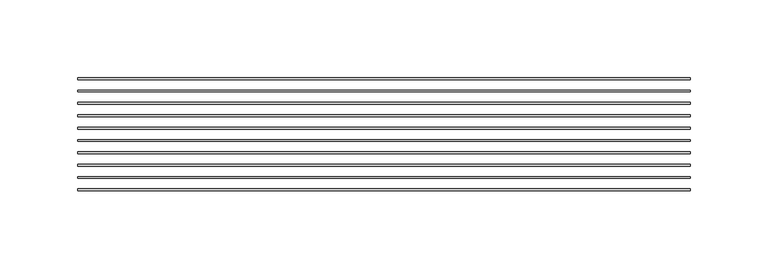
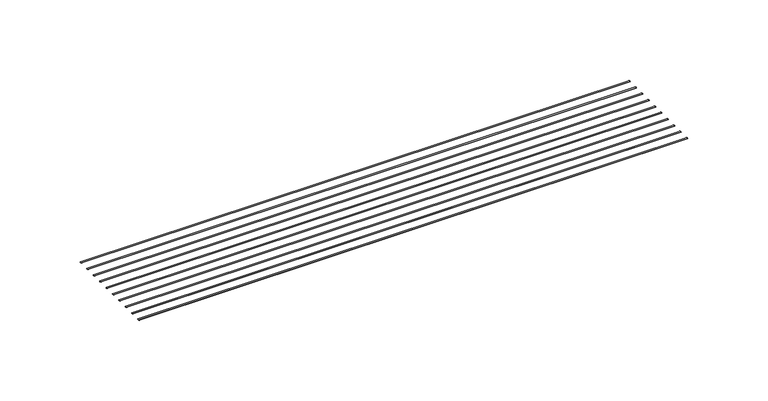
"""IFC4 building model written with IfcOpenShell, lengths in millimetres: proxy geometry, CRAi Generic Model Mesh Piece Face Based : CRAi Generic Model Mesh Piece Face Based."""

from ifc_helpers import new_model, si_unit, point, frame, origin, place, context, project, spatial, ellipse_curve, trimmed, source, transform, mapped, element, save
from ifc_brep_helpers import plane_surface, extruded_surface, advanced_brep


def generic_models_12b73edd(model_context):
    return source(origin(), model_context, "Body", "AdvancedBrep", [
        advanced_brep(
        [(-196.85, 79.6859798, -2.9765625), (-196.85, 80.8766048, -2.9765625), (196.85, 79.6859798, -2.9765625), (196.85, 80.8766048, -2.9765625)],
        [
            (0, 1, ellipse_curve(frame((-196.85, 80.2812923, -2.9765625), z_axis=(-1.0, 0.0, 0.0), x_axis=(0.0, 1.0, 0.0)), 0.5953125, 0.1984375)),
            (1, 0, ellipse_curve(frame((-196.85, 80.2812923, -2.9765625), z_axis=(-1.0, 0.0, 0.0), x_axis=(0.0, 1.0, 0.0)), 0.5953125, 0.1984375)),
            (2, 3, ellipse_curve(frame((196.85, 80.2812923, -2.9765625), z_axis=(1.0, 0.0, 0.0), x_axis=(0.0, 1.0, 0.0)), 0.5953125, 0.1984375)),
            (3, 2, ellipse_curve(frame((196.85, 80.2812923, -2.9765625), z_axis=(1.0, 0.0, 0.0), x_axis=(0.0, 1.0, 0.0)), 0.5953125, 0.1984375)),
            (1, 3),
            (2, 0),
        ],
        [
            plane_surface(frame((-196.85, 80.2812923, -2.9765625), z_axis=(-1.0, 0.0, 0.0), x_axis=(0.0, 0.0, 1.0))),
            plane_surface(frame((196.85, 80.2812923, -2.9765625), z_axis=(1.0, 0.0, 0.0), x_axis=(0.0, 0.0, 1.0))),
            extruded_surface(trimmed(ellipse_curve(frame((-196.85, 80.2812923, -2.9765625), z_axis=(1.0, 0.0, 0.0), x_axis=(0.0, 1.0, 0.0)), 0.5953125, 0.1984375), [point((-196.85, 79.6859798, -2.9765625))], [point((-196.85, 80.8766048, -2.9765625))], True, "CARTESIAN"), (393.7, 0.0, 0.0), 393.7),
            extruded_surface(trimmed(ellipse_curve(frame((-196.85, 80.2812923, -2.9765625), z_axis=(1.0, 0.0, 0.0), x_axis=(0.0, 1.0, 0.0)), 0.5953125, 0.1984375), [point((-196.85, 80.8766048, -2.9765625))], [point((-196.85, 79.6859798, -2.9765625))], True, "CARTESIAN"), (393.7, 0.0, 0.0), 393.7),
        ],
        [
            (0, [[1, 2]]),
            (1, [[3, 4]]),
            (2, [[5, -3, 6, -2]]),
            (3, [[-6, -4, -5, -1]]),
        ],
    ),
        advanced_brep(
        [(-196.85, 87.6234798, -2.9765625), (-196.85, 88.8141048, -2.9765625), (196.85, 87.6234798, -2.9765625), (196.85, 88.8141048, -2.9765625)],
        [
            (0, 1, ellipse_curve(frame((-196.85, 88.2187923, -2.9765625), z_axis=(-1.0, 0.0, 0.0), x_axis=(0.0, 1.0, 0.0)), 0.5953125, 0.1984375)),
            (1, 0, ellipse_curve(frame((-196.85, 88.2187923, -2.9765625), z_axis=(-1.0, 0.0, 0.0), x_axis=(0.0, 1.0, 0.0)), 0.5953125, 0.1984375)),
            (2, 3, ellipse_curve(frame((196.85, 88.2187923, -2.9765625), z_axis=(1.0, 0.0, 0.0), x_axis=(0.0, 1.0, 0.0)), 0.5953125, 0.1984375)),
            (3, 2, ellipse_curve(frame((196.85, 88.2187923, -2.9765625), z_axis=(1.0, 0.0, 0.0), x_axis=(0.0, 1.0, 0.0)), 0.5953125, 0.1984375)),
            (1, 3),
            (2, 0),
        ],
        [
            plane_surface(frame((-196.85, 88.2187923, -2.9765625), z_axis=(-1.0, 0.0, 0.0), x_axis=(0.0, 0.0, 1.0))),
            plane_surface(frame((196.85, 88.2187923, -2.9765625), z_axis=(1.0, 0.0, 0.0), x_axis=(0.0, 0.0, 1.0))),
            extruded_surface(trimmed(ellipse_curve(frame((-196.85, 88.2187923, -2.9765625), z_axis=(1.0, 0.0, 0.0), x_axis=(0.0, 1.0, 0.0)), 0.5953125, 0.1984375), [point((-196.85, 87.6234798, -2.9765625))], [point((-196.85, 88.8141048, -2.9765625))], True, "CARTESIAN"), (393.7, 0.0, 0.0), 393.7),
            extruded_surface(trimmed(ellipse_curve(frame((-196.85, 88.2187923, -2.9765625), z_axis=(1.0, 0.0, 0.0), x_axis=(0.0, 1.0, 0.0)), 0.5953125, 0.1984375), [point((-196.85, 88.8141048, -2.9765625))], [point((-196.85, 87.6234798, -2.9765625))], True, "CARTESIAN"), (393.7, 0.0, 0.0), 393.7),
        ],
        [
            (0, [[1, 2]]),
            (1, [[3, 4]]),
            (2, [[5, -3, 6, -2]]),
            (3, [[-6, -4, -5, -1]]),
        ],
    ),
        advanced_brep(
        [(-196.85, 95.5609798, -2.9765625), (-196.85, 96.7516048, -2.9765625), (196.85, 95.5609798, -2.9765625), (196.85, 96.7516048, -2.9765625)],
        [
            (0, 1, ellipse_curve(frame((-196.85, 96.1562923, -2.9765625), z_axis=(-1.0, 0.0, 0.0), x_axis=(0.0, 1.0, 0.0)), 0.5953125, 0.1984375)),
            (1, 0, ellipse_curve(frame((-196.85, 96.1562923, -2.9765625), z_axis=(-1.0, 0.0, 0.0), x_axis=(0.0, 1.0, 0.0)), 0.5953125, 0.1984375)),
            (2, 3, ellipse_curve(frame((196.85, 96.1562923, -2.9765625), z_axis=(1.0, 0.0, 0.0), x_axis=(0.0, 1.0, 0.0)), 0.5953125, 0.1984375)),
            (3, 2, ellipse_curve(frame((196.85, 96.1562923, -2.9765625), z_axis=(1.0, 0.0, 0.0), x_axis=(0.0, 1.0, 0.0)), 0.5953125, 0.1984375)),
            (1, 3),
            (2, 0),
        ],
        [
            plane_surface(frame((-196.85, 96.1562923, -2.9765625), z_axis=(-1.0, 0.0, 0.0), x_axis=(0.0, 0.0, 1.0))),
            plane_surface(frame((196.85, 96.1562923, -2.9765625), z_axis=(1.0, 0.0, 0.0), x_axis=(0.0, 0.0, 1.0))),
            extruded_surface(trimmed(ellipse_curve(frame((-196.85, 96.1562923, -2.9765625), z_axis=(1.0, 0.0, 0.0), x_axis=(0.0, 1.0, 0.0)), 0.5953125, 0.1984375), [point((-196.85, 95.5609798, -2.9765625))], [point((-196.85, 96.7516048, -2.9765625))], True, "CARTESIAN"), (393.7, 0.0, 0.0), 393.7),
            extruded_surface(trimmed(ellipse_curve(frame((-196.85, 96.1562923, -2.9765625), z_axis=(1.0, 0.0, 0.0), x_axis=(0.0, 1.0, 0.0)), 0.5953125, 0.1984375), [point((-196.85, 96.7516048, -2.9765625))], [point((-196.85, 95.5609798, -2.9765625))], True, "CARTESIAN"), (393.7, 0.0, 0.0), 393.7),
        ],
        [
            (0, [[1, 2]]),
            (1, [[3, 4]]),
            (2, [[5, -3, 6, -2]]),
            (3, [[-6, -4, -5, -1]]),
        ],
    ),
        advanced_brep(
        [(-196.85, 103.4984798, -2.9765625), (-196.85, 104.6891048, -2.9765625), (196.85, 103.4984798, -2.9765625), (196.85, 104.6891048, -2.9765625)],
        [
            (0, 1, ellipse_curve(frame((-196.85, 104.0937923, -2.9765625), z_axis=(-1.0, 0.0, 0.0), x_axis=(0.0, 1.0, 0.0)), 0.5953125, 0.1984375)),
            (1, 0, ellipse_curve(frame((-196.85, 104.0937923, -2.9765625), z_axis=(-1.0, 0.0, 0.0), x_axis=(0.0, 1.0, 0.0)), 0.5953125, 0.1984375)),
            (2, 3, ellipse_curve(frame((196.85, 104.0937923, -2.9765625), z_axis=(1.0, 0.0, 0.0), x_axis=(0.0, 1.0, 0.0)), 0.5953125, 0.1984375)),
            (3, 2, ellipse_curve(frame((196.85, 104.0937923, -2.9765625), z_axis=(1.0, 0.0, 0.0), x_axis=(0.0, 1.0, 0.0)), 0.5953125, 0.1984375)),
            (1, 3),
            (2, 0),
        ],
        [
            plane_surface(frame((-196.85, 104.0937923, -2.9765625), z_axis=(-1.0, 0.0, 0.0), x_axis=(0.0, 0.0, 1.0))),
            plane_surface(frame((196.85, 104.0937923, -2.9765625), z_axis=(1.0, 0.0, 0.0), x_axis=(0.0, 0.0, 1.0))),
            extruded_surface(trimmed(ellipse_curve(frame((-196.85, 104.0937923, -2.9765625), z_axis=(1.0, 0.0, 0.0), x_axis=(0.0, 1.0, 0.0)), 0.5953125, 0.1984375), [point((-196.85, 103.4984798, -2.9765625))], [point((-196.85, 104.6891048, -2.9765625))], True, "CARTESIAN"), (393.7, 0.0, 0.0), 393.7),
            extruded_surface(trimmed(ellipse_curve(frame((-196.85, 104.0937923, -2.9765625), z_axis=(1.0, 0.0, 0.0), x_axis=(0.0, 1.0, 0.0)), 0.5953125, 0.1984375), [point((-196.85, 104.6891048, -2.9765625))], [point((-196.85, 103.4984798, -2.9765625))], True, "CARTESIAN"), (393.7, 0.0, 0.0), 393.7),
        ],
        [
            (0, [[1, 2]]),
            (1, [[3, 4]]),
            (2, [[5, -3, 6, -2]]),
            (3, [[-6, -4, -5, -1]]),
        ],
    ),
        advanced_brep(
        [(-196.85, 111.4359798, -2.9765625), (-196.85, 112.6266048, -2.9765625), (196.85, 111.4359798, -2.9765625), (196.85, 112.6266048, -2.9765625)],
        [
            (0, 1, ellipse_curve(frame((-196.85, 112.0312923, -2.9765625), z_axis=(-1.0, 0.0, 0.0), x_axis=(0.0, 1.0, 0.0)), 0.5953125, 0.1984375)),
            (1, 0, ellipse_curve(frame((-196.85, 112.0312923, -2.9765625), z_axis=(-1.0, 0.0, 0.0), x_axis=(0.0, 1.0, 0.0)), 0.5953125, 0.1984375)),
            (2, 3, ellipse_curve(frame((196.85, 112.0312923, -2.9765625), z_axis=(1.0, 0.0, 0.0), x_axis=(0.0, 1.0, 0.0)), 0.5953125, 0.1984375)),
            (3, 2, ellipse_curve(frame((196.85, 112.0312923, -2.9765625), z_axis=(1.0, 0.0, 0.0), x_axis=(0.0, 1.0, 0.0)), 0.5953125, 0.1984375)),
            (1, 3),
            (2, 0),
        ],
        [
            plane_surface(frame((-196.85, 112.0312923, -2.9765625), z_axis=(-1.0, 0.0, 0.0), x_axis=(0.0, 0.0, 1.0))),
            plane_surface(frame((196.85, 112.0312923, -2.9765625), z_axis=(1.0, 0.0, 0.0), x_axis=(0.0, 0.0, 1.0))),
            extruded_surface(trimmed(ellipse_curve(frame((-196.85, 112.0312923, -2.9765625), z_axis=(1.0, 0.0, 0.0), x_axis=(0.0, 1.0, 0.0)), 0.5953125, 0.1984375), [point((-196.85, 111.4359798, -2.9765625))], [point((-196.85, 112.6266048, -2.9765625))], True, "CARTESIAN"), (393.7, 0.0, 0.0), 393.7),
            extruded_surface(trimmed(ellipse_curve(frame((-196.85, 112.0312923, -2.9765625), z_axis=(1.0, 0.0, 0.0), x_axis=(0.0, 1.0, 0.0)), 0.5953125, 0.1984375), [point((-196.85, 112.6266048, -2.9765625))], [point((-196.85, 111.4359798, -2.9765625))], True, "CARTESIAN"), (393.7, 0.0, 0.0), 393.7),
        ],
        [
            (0, [[1, 2]]),
            (1, [[3, 4]]),
            (2, [[5, -3, 6, -2]]),
            (3, [[-6, -4, -5, -1]]),
        ],
    ),
        advanced_brep(
        [(-196.85, 119.3734798, -2.9765625), (-196.85, 120.5641048, -2.9765625), (196.85, 119.3734798, -2.9765625), (196.85, 120.5641048, -2.9765625)],
        [
            (0, 1, ellipse_curve(frame((-196.85, 119.9687923, -2.9765625), z_axis=(-1.0, 0.0, 0.0), x_axis=(0.0, 1.0, 0.0)), 0.5953125, 0.1984375)),
            (1, 0, ellipse_curve(frame((-196.85, 119.9687923, -2.9765625), z_axis=(-1.0, 0.0, 0.0), x_axis=(0.0, 1.0, 0.0)), 0.5953125, 0.1984375)),
            (2, 3, ellipse_curve(frame((196.85, 119.9687923, -2.9765625), z_axis=(1.0, 0.0, 0.0), x_axis=(0.0, 1.0, 0.0)), 0.5953125, 0.1984375)),
            (3, 2, ellipse_curve(frame((196.85, 119.9687923, -2.9765625), z_axis=(1.0, 0.0, 0.0), x_axis=(0.0, 1.0, 0.0)), 0.5953125, 0.1984375)),
            (1, 3),
            (2, 0),
        ],
        [
            plane_surface(frame((-196.85, 119.9687923, -2.9765625), z_axis=(-1.0, 0.0, 0.0), x_axis=(0.0, 0.0, 1.0))),
            plane_surface(frame((196.85, 119.9687923, -2.9765625), z_axis=(1.0, 0.0, 0.0), x_axis=(0.0, 0.0, 1.0))),
            extruded_surface(trimmed(ellipse_curve(frame((-196.85, 119.9687923, -2.9765625), z_axis=(1.0, 0.0, 0.0), x_axis=(0.0, 1.0, 0.0)), 0.5953125, 0.1984375), [point((-196.85, 119.3734798, -2.9765625))], [point((-196.85, 120.5641048, -2.9765625))], True, "CARTESIAN"), (393.7, 0.0, 0.0), 393.7),
            extruded_surface(trimmed(ellipse_curve(frame((-196.85, 119.9687923, -2.9765625), z_axis=(1.0, 0.0, 0.0), x_axis=(0.0, 1.0, 0.0)), 0.5953125, 0.1984375), [point((-196.85, 120.5641048, -2.9765625))], [point((-196.85, 119.3734798, -2.9765625))], True, "CARTESIAN"), (393.7, 0.0, 0.0), 393.7),
        ],
        [
            (0, [[1, 2]]),
            (1, [[3, 4]]),
            (2, [[5, -3, 6, -2]]),
            (3, [[-6, -4, -5, -1]]),
        ],
    ),
        advanced_brep(
        [(-196.85, 127.3109798, -2.9765625), (-196.85, 128.5016048, -2.9765625), (196.85, 127.3109798, -2.9765625), (196.85, 128.5016048, -2.9765625)],
        [
            (0, 1, ellipse_curve(frame((-196.85, 127.9062923, -2.9765625), z_axis=(-1.0, 0.0, 0.0), x_axis=(0.0, 1.0, 0.0)), 0.5953125, 0.1984375)),
            (1, 0, ellipse_curve(frame((-196.85, 127.9062923, -2.9765625), z_axis=(-1.0, 0.0, 0.0), x_axis=(0.0, 1.0, 0.0)), 0.5953125, 0.1984375)),
            (2, 3, ellipse_curve(frame((196.85, 127.9062923, -2.9765625), z_axis=(1.0, 0.0, 0.0), x_axis=(0.0, 1.0, 0.0)), 0.5953125, 0.1984375)),
            (3, 2, ellipse_curve(frame((196.85, 127.9062923, -2.9765625), z_axis=(1.0, 0.0, 0.0), x_axis=(0.0, 1.0, 0.0)), 0.5953125, 0.1984375)),
            (1, 3),
            (2, 0),
        ],
        [
            plane_surface(frame((-196.85, 127.9062923, -2.9765625), z_axis=(-1.0, 0.0, 0.0), x_axis=(0.0, 0.0, 1.0))),
            plane_surface(frame((196.85, 127.9062923, -2.9765625), z_axis=(1.0, 0.0, 0.0), x_axis=(0.0, 0.0, 1.0))),
            extruded_surface(trimmed(ellipse_curve(frame((-196.85, 127.9062923, -2.9765625), z_axis=(1.0, 0.0, 0.0), x_axis=(0.0, 1.0, 0.0)), 0.5953125, 0.1984375), [point((-196.85, 127.3109798, -2.9765625))], [point((-196.85, 128.5016048, -2.9765625))], True, "CARTESIAN"), (393.7, 0.0, 0.0), 393.7),
            extruded_surface(trimmed(ellipse_curve(frame((-196.85, 127.9062923, -2.9765625), z_axis=(1.0, 0.0, 0.0), x_axis=(0.0, 1.0, 0.0)), 0.5953125, 0.1984375), [point((-196.85, 128.5016048, -2.9765625))], [point((-196.85, 127.3109798, -2.9765625))], True, "CARTESIAN"), (393.7, 0.0, 0.0), 393.7),
        ],
        [
            (0, [[1, 2]]),
            (1, [[3, 4]]),
            (2, [[5, -3, 6, -2]]),
            (3, [[-6, -4, -5, -1]]),
        ],
    ),
        advanced_brep(
        [(-196.85, 135.2484798, -2.9765625), (-196.85, 136.4391048, -2.9765625), (196.85, 135.2484798, -2.9765625), (196.85, 136.4391048, -2.9765625)],
        [
            (0, 1, ellipse_curve(frame((-196.85, 135.8437923, -2.9765625), z_axis=(-1.0, 0.0, 0.0), x_axis=(0.0, 1.0, 0.0)), 0.5953125, 0.1984375)),
            (1, 0, ellipse_curve(frame((-196.85, 135.8437923, -2.9765625), z_axis=(-1.0, 0.0, 0.0), x_axis=(0.0, 1.0, 0.0)), 0.5953125, 0.1984375)),
            (2, 3, ellipse_curve(frame((196.85, 135.8437923, -2.9765625), z_axis=(1.0, 0.0, 0.0), x_axis=(0.0, 1.0, 0.0)), 0.5953125, 0.1984375)),
            (3, 2, ellipse_curve(frame((196.85, 135.8437923, -2.9765625), z_axis=(1.0, 0.0, 0.0), x_axis=(0.0, 1.0, 0.0)), 0.5953125, 0.1984375)),
            (1, 3),
            (2, 0),
        ],
        [
            plane_surface(frame((-196.85, 135.8437923, -2.9765625), z_axis=(-1.0, 0.0, 0.0), x_axis=(0.0, 0.0, 1.0))),
            plane_surface(frame((196.85, 135.8437923, -2.9765625), z_axis=(1.0, 0.0, 0.0), x_axis=(0.0, 0.0, 1.0))),
            extruded_surface(trimmed(ellipse_curve(frame((-196.85, 135.8437923, -2.9765625), z_axis=(1.0, 0.0, 0.0), x_axis=(0.0, 1.0, 0.0)), 0.5953125, 0.1984375), [point((-196.85, 135.2484798, -2.9765625))], [point((-196.85, 136.4391048, -2.9765625))], True, "CARTESIAN"), (393.7, 0.0, 0.0), 393.7),
            extruded_surface(trimmed(ellipse_curve(frame((-196.85, 135.8437923, -2.9765625), z_axis=(1.0, 0.0, 0.0), x_axis=(0.0, 1.0, 0.0)), 0.5953125, 0.1984375), [point((-196.85, 136.4391048, -2.9765625))], [point((-196.85, 135.2484798, -2.9765625))], True, "CARTESIAN"), (393.7, 0.0, 0.0), 393.7),
        ],
        [
            (0, [[1, 2]]),
            (1, [[3, 4]]),
            (2, [[5, -3, 6, -2]]),
            (3, [[-6, -4, -5, -1]]),
        ],
    ),
        advanced_brep(
        [(-196.85, 143.1859798, -2.9765625), (-196.85, 144.3766048, -2.9765625), (196.85, 143.1859798, -2.9765625), (196.85, 144.3766048, -2.9765625)],
        [
            (0, 1, ellipse_curve(frame((-196.85, 143.7812923, -2.9765625), z_axis=(-1.0, 0.0, 0.0), x_axis=(0.0, 1.0, 0.0)), 0.5953125, 0.1984375)),
            (1, 0, ellipse_curve(frame((-196.85, 143.7812923, -2.9765625), z_axis=(-1.0, 0.0, 0.0), x_axis=(0.0, 1.0, 0.0)), 0.5953125, 0.1984375)),
            (2, 3, ellipse_curve(frame((196.85, 143.7812923, -2.9765625), z_axis=(1.0, 0.0, 0.0), x_axis=(0.0, 1.0, 0.0)), 0.5953125, 0.1984375)),
            (3, 2, ellipse_curve(frame((196.85, 143.7812923, -2.9765625), z_axis=(1.0, 0.0, 0.0), x_axis=(0.0, 1.0, 0.0)), 0.5953125, 0.1984375)),
            (1, 3),
            (2, 0),
        ],
        [
            plane_surface(frame((-196.85, 143.7812923, -2.9765625), z_axis=(-1.0, 0.0, 0.0), x_axis=(0.0, 0.0, 1.0))),
            plane_surface(frame((196.85, 143.7812923, -2.9765625), z_axis=(1.0, 0.0, 0.0), x_axis=(0.0, 0.0, 1.0))),
            extruded_surface(trimmed(ellipse_curve(frame((-196.85, 143.7812923, -2.9765625), z_axis=(1.0, 0.0, 0.0), x_axis=(0.0, 1.0, 0.0)), 0.5953125, 0.1984375), [point((-196.85, 143.1859798, -2.9765625))], [point((-196.85, 144.3766048, -2.9765625))], True, "CARTESIAN"), (393.7, 0.0, 0.0), 393.7),
            extruded_surface(trimmed(ellipse_curve(frame((-196.85, 143.7812923, -2.9765625), z_axis=(1.0, 0.0, 0.0), x_axis=(0.0, 1.0, 0.0)), 0.5953125, 0.1984375), [point((-196.85, 144.3766048, -2.9765625))], [point((-196.85, 143.1859798, -2.9765625))], True, "CARTESIAN"), (393.7, 0.0, 0.0), 393.7),
        ],
        [
            (0, [[1, 2]]),
            (1, [[3, 4]]),
            (2, [[5, -3, 6, -2]]),
            (3, [[-6, -4, -5, -1]]),
        ],
    ),
        advanced_brep(
        [(-196.85, 151.1234798, -2.9765625), (-196.85, 152.3141048, -2.9765625), (196.85, 151.1234798, -2.9765625), (196.85, 152.3141048, -2.9765625)],
        [
            (0, 1, ellipse_curve(frame((-196.85, 151.7187923, -2.9765625), z_axis=(-1.0, 0.0, 0.0), x_axis=(0.0, 1.0, 0.0)), 0.5953125, 0.1984375)),
            (1, 0, ellipse_curve(frame((-196.85, 151.7187923, -2.9765625), z_axis=(-1.0, 0.0, 0.0), x_axis=(0.0, 1.0, 0.0)), 0.5953125, 0.1984375)),
            (2, 3, ellipse_curve(frame((196.85, 151.7187923, -2.9765625), z_axis=(1.0, 0.0, 0.0), x_axis=(0.0, 1.0, 0.0)), 0.5953125, 0.1984375)),
            (3, 2, ellipse_curve(frame((196.85, 151.7187923, -2.9765625), z_axis=(1.0, 0.0, 0.0), x_axis=(0.0, 1.0, 0.0)), 0.5953125, 0.1984375)),
            (1, 3),
            (2, 0),
        ],
        [
            plane_surface(frame((-196.85, 151.7187923, -2.9765625), z_axis=(-1.0, 0.0, 0.0), x_axis=(0.0, 0.0, 1.0))),
            plane_surface(frame((196.85, 151.7187923, -2.9765625), z_axis=(1.0, 0.0, 0.0), x_axis=(0.0, 0.0, 1.0))),
            extruded_surface(trimmed(ellipse_curve(frame((-196.85, 151.7187923, -2.9765625), z_axis=(1.0, 0.0, 0.0), x_axis=(0.0, 1.0, 0.0)), 0.5953125, 0.1984375), [point((-196.85, 151.1234798, -2.9765625))], [point((-196.85, 152.3141048, -2.9765625))], True, "CARTESIAN"), (393.7, 0.0, 0.0), 393.7),
            extruded_surface(trimmed(ellipse_curve(frame((-196.85, 151.7187923, -2.9765625), z_axis=(1.0, 0.0, 0.0), x_axis=(0.0, 1.0, 0.0)), 0.5953125, 0.1984375), [point((-196.85, 152.3141048, -2.9765625))], [point((-196.85, 151.1234798, -2.9765625))], True, "CARTESIAN"), (393.7, 0.0, 0.0), 393.7),
        ],
        [
            (0, [[1, 2]]),
            (1, [[3, 4]]),
            (2, [[5, -3, 6, -2]]),
            (3, [[-6, -4, -5, -1]]),
        ],
    ),
    ])


if __name__ == "__main__":
    model = new_model("IFC4")
    model_context = context("Model", 3, world=origin())
    ifc_project = project(units=[si_unit("LENGTHUNIT", "METRE", prefix="MILLI")], contexts=[model_context])
    site = spatial("IfcSite", under=ifc_project)
    building = spatial("IfcBuilding", under=site)
    placement = place(None, origin())
    generic_models_shape = generic_models_12b73edd(model_context)
    element("IfcBuildingElementProxy", 1, Name="CRAi Generic Model Mesh Piece Face Based : CRAi Generic Model Mesh Piece Face Based", ObjectType="CRAi Generic Model Mesh Piece Face Based : CRAi Generic Model Mesh Piece Face Based", at=placement, inside=building, context=model_context, shape_type="MappedRepresentation", body=[
        mapped(generic_models_shape, transform((0.0, 0.0, 0.0), x_axis=(1.0, 0.0, 0.0), y_axis=(0.0, 1.0, 0.0), z_axis=(0.0, 0.0, 1.0))),
    ])
    save(model, "model.ifc")
